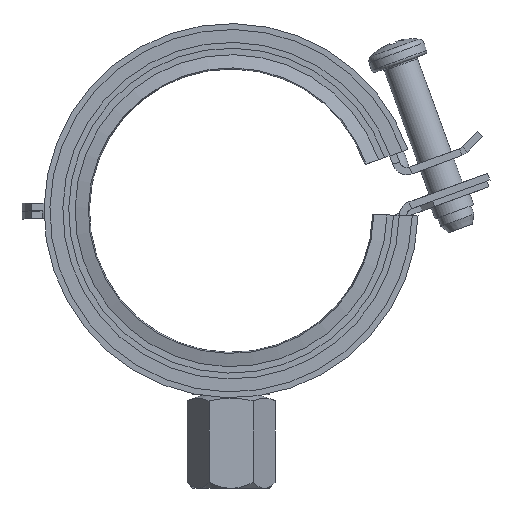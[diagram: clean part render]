
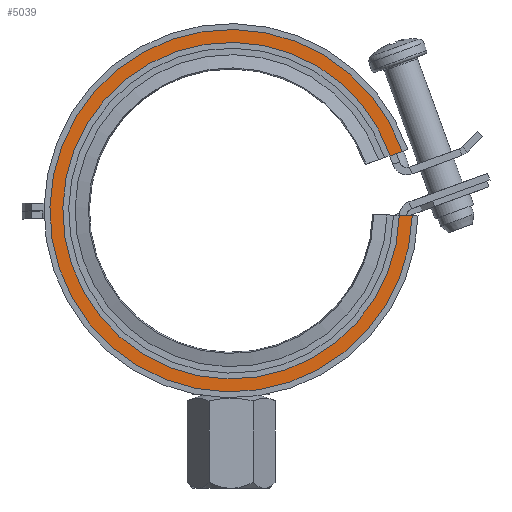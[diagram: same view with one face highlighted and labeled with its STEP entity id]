
A CAD part, front view. The second image highlights one B-rep face of the part: STEP entity #5039.
In plain terms, the highlighted planar face has unit normal (0, -1, 0).
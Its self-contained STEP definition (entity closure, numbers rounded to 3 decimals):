
#257=PLANE('',#5526);
#520=FACE_OUTER_BOUND('',#804,.T.);
#804=EDGE_LOOP('',(#4256,#4257,#4258,#4259));
#1219=LINE('',#9084,#1621);
#1220=LINE('',#9087,#1622);
#1621=VECTOR('',#6780,1000.);
#1622=VECTOR('',#6783,1000.);
#1878=CIRCLE('',#5525,30.9);
#1879=CIRCLE('',#5527,28.7);
#2299=VERTEX_POINT('',#9077);
#2300=VERTEX_POINT('',#9079);
#2301=VERTEX_POINT('',#9083);
#2302=VERTEX_POINT('',#9085);
#2967=EDGE_CURVE('',#2299,#2300,#1878,.T.);
#2969=EDGE_CURVE('',#2301,#2299,#1219,.T.);
#2970=EDGE_CURVE('',#2301,#2302,#1879,.T.);
#2971=EDGE_CURVE('',#2302,#2300,#1220,.T.);
#4256=ORIENTED_EDGE('',*,*,#2967,.F.);
#4257=ORIENTED_EDGE('',*,*,#2969,.F.);
#4258=ORIENTED_EDGE('',*,*,#2970,.T.);
#4259=ORIENTED_EDGE('',*,*,#2971,.T.);
#5039=ADVANCED_FACE('',(#520),#257,.F.);
#5525=AXIS2_PLACEMENT_3D('',#9080,#6775,#6776);
#5526=AXIS2_PLACEMENT_3D('',#9082,#6778,#6779);
#5527=AXIS2_PLACEMENT_3D('',#9086,#6781,#6782);
#6775=DIRECTION('center_axis',(0.,1.,0.));
#6776=DIRECTION('ref_axis',(1.,0.,-0.027));
#6778=DIRECTION('center_axis',(0.,1.,0.));
#6779=DIRECTION('ref_axis',(0.988,0.,0.152));
#6780=DIRECTION('',(1.,0.,-0.027));
#6781=DIRECTION('center_axis',(0.,1.,0.));
#6782=DIRECTION('ref_axis',(1.,0.,-0.027));
#6783=DIRECTION('',(0.945,0.,0.327));
#9077=CARTESIAN_POINT('',(30.889,-12.,-0.841));
#9079=CARTESIAN_POINT('',(29.207,-12.,10.089));
#9080=CARTESIAN_POINT('Origin',(0.,-12.,0.));
#9082=CARTESIAN_POINT('Origin',(30.889,-12.,-0.841));
#9083=CARTESIAN_POINT('',(28.689,-12.,-0.782));
#9084=CARTESIAN_POINT('',(30.889,-12.,-0.841));
#9085=CARTESIAN_POINT('',(27.127,-12.,9.371));
#9086=CARTESIAN_POINT('Origin',(0.,-12.,0.));
#9087=CARTESIAN_POINT('',(29.207,-12.,10.089));
